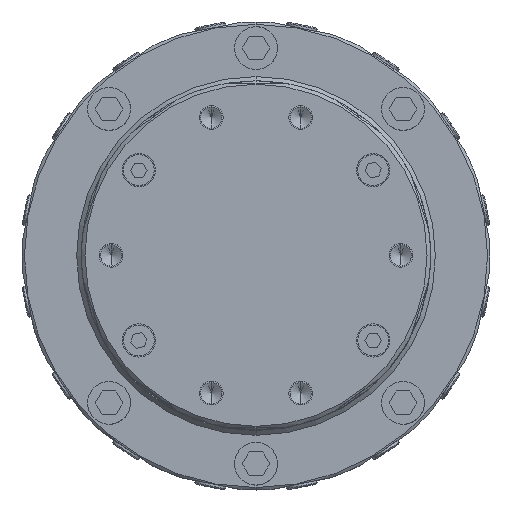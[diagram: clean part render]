
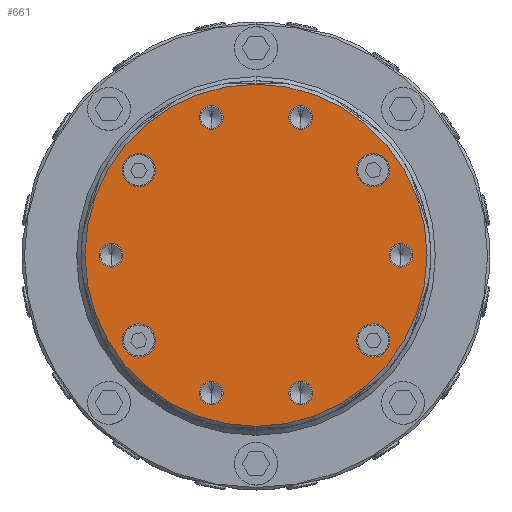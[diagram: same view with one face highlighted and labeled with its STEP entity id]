
A CAD part, top view. The second image highlights one B-rep face of the part: STEP entity #661.
In plain terms, the highlighted planar face has unit normal (0, 0, 1).
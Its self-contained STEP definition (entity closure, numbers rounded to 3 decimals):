
#436=CARTESIAN_POINT('',(61.0,5.0,185.0));
#437=VERTEX_POINT('',#436);
#438=CARTESIAN_POINT('',(61.0,-5.0,185.0));
#439=VERTEX_POINT('',#438);
#440=CARTESIAN_POINT('',(61.0,0.0,185.0));
#441=DIRECTION('',(-0.0,0.0,1.0));
#442=DIRECTION('',(0.0,-1.0,0.0));
#443=AXIS2_PLACEMENT_3D('',#440,#441,#442);
#444=CIRCLE('',#443,5.0);
#445=EDGE_CURVE('no 3980',#437,#439,#444,.T.);
#446=ORIENTED_EDGE('',*,*,#445,.F.);
#447=CARTESIAN_POINT('',(61.0,0.0,185.0));
#448=DIRECTION('',(-0.0,0.0,1.0));
#449=DIRECTION('',(0.0,-1.0,0.0));
#450=AXIS2_PLACEMENT_3D('',#447,#448,#449);
#451=CIRCLE('',#450,5.0);
#452=EDGE_CURVE('no 3984',#439,#437,#451,.T.);
#453=ORIENTED_EDGE('',*,*,#452,.F.);
#454=EDGE_LOOP('',(#446,#453));
#455=FACE_BOUND('',#454,.T.);
#456=CARTESIAN_POINT('',(18.85,63.014,185.0));
#457=VERTEX_POINT('',#456);
#458=CARTESIAN_POINT('',(18.85,53.014,185.0));
#459=VERTEX_POINT('',#458);
#460=CARTESIAN_POINT('',(18.85,58.014,185.0));
#461=DIRECTION('',(-0.0,0.0,1.0));
#462=DIRECTION('',(0.0,-1.0,0.0));
#463=AXIS2_PLACEMENT_3D('',#460,#461,#462);
#464=CIRCLE('',#463,5.0);
#465=EDGE_CURVE('no 3993',#457,#459,#464,.T.);
#466=ORIENTED_EDGE('',*,*,#465,.F.);
#467=CARTESIAN_POINT('',(18.85,58.014,185.0));
#468=DIRECTION('',(-0.0,0.0,1.0));
#469=DIRECTION('',(0.0,-1.0,0.0));
#470=AXIS2_PLACEMENT_3D('',#467,#468,#469);
#471=CIRCLE('',#470,5.0);
#472=EDGE_CURVE('no 3997',#459,#457,#471,.T.);
#473=ORIENTED_EDGE('',*,*,#472,.F.);
#474=EDGE_LOOP('',(#466,#473));
#475=FACE_BOUND('',#474,.T.);
#476=CARTESIAN_POINT('',(18.85,-53.014,185.0));
#477=VERTEX_POINT('',#476);
#478=CARTESIAN_POINT('',(18.85,-63.014,185.0));
#479=VERTEX_POINT('',#478);
#480=CARTESIAN_POINT('',(18.85,-58.014,185.0));
#481=DIRECTION('',(-0.0,0.0,1.0));
#482=DIRECTION('',(0.0,-1.0,0.0));
#483=AXIS2_PLACEMENT_3D('',#480,#481,#482);
#484=CIRCLE('',#483,5.0);
#485=EDGE_CURVE('no 4006',#477,#479,#484,.T.);
#486=ORIENTED_EDGE('',*,*,#485,.F.);
#487=CARTESIAN_POINT('',(18.85,-58.014,185.0));
#488=DIRECTION('',(-0.0,0.0,1.0));
#489=DIRECTION('',(0.0,-1.0,0.0));
#490=AXIS2_PLACEMENT_3D('',#487,#488,#489);
#491=CIRCLE('',#490,5.0);
#492=EDGE_CURVE('no 4010',#479,#477,#491,.T.);
#493=ORIENTED_EDGE('',*,*,#492,.F.);
#494=EDGE_LOOP('',(#486,#493));
#495=FACE_BOUND('',#494,.T.);
#496=CARTESIAN_POINT('',(49.35,42.855,185.0));
#497=VERTEX_POINT('',#496);
#498=CARTESIAN_POINT('',(49.35,28.855,185.0));
#499=VERTEX_POINT('',#498);
#500=CARTESIAN_POINT('',(49.35,35.855,185.0));
#501=DIRECTION('',(-0.0,0.0,1.0));
#502=DIRECTION('',(0.0,-1.0,0.0));
#503=AXIS2_PLACEMENT_3D('',#500,#501,#502);
#504=CIRCLE('',#503,7.0);
#505=EDGE_CURVE('no 4019',#497,#499,#504,.T.);
#506=ORIENTED_EDGE('',*,*,#505,.F.);
#507=CARTESIAN_POINT('',(49.35,35.855,185.0));
#508=DIRECTION('',(-0.0,0.0,1.0));
#509=DIRECTION('',(0.0,-1.0,0.0));
#510=AXIS2_PLACEMENT_3D('',#507,#508,#509);
#511=CIRCLE('',#510,7.0);
#512=EDGE_CURVE('no 4023',#499,#497,#511,.T.);
#513=ORIENTED_EDGE('',*,*,#512,.F.);
#514=EDGE_LOOP('',(#506,#513));
#515=FACE_BOUND('',#514,.T.);
#516=CARTESIAN_POINT('',(49.35,-28.855,185.0));
#517=VERTEX_POINT('',#516);
#518=CARTESIAN_POINT('',(49.35,-42.855,185.0));
#519=VERTEX_POINT('',#518);
#520=CARTESIAN_POINT('',(49.35,-35.855,185.0));
#521=DIRECTION('',(-0.0,0.0,1.0));
#522=DIRECTION('',(0.0,-1.0,0.0));
#523=AXIS2_PLACEMENT_3D('',#520,#521,#522);
#524=CIRCLE('',#523,7.0);
#525=EDGE_CURVE('no 4032',#517,#519,#524,.T.);
#526=ORIENTED_EDGE('',*,*,#525,.F.);
#527=CARTESIAN_POINT('',(49.35,-35.855,185.0));
#528=DIRECTION('',(-0.0,0.0,1.0));
#529=DIRECTION('',(0.0,-1.0,0.0));
#530=AXIS2_PLACEMENT_3D('',#527,#528,#529);
#531=CIRCLE('',#530,7.0);
#532=EDGE_CURVE('no 4036',#519,#517,#531,.T.);
#533=ORIENTED_EDGE('',*,*,#532,.F.);
#534=EDGE_LOOP('',(#526,#533));
#535=FACE_BOUND('',#534,.T.);
#536=CARTESIAN_POINT('',(-61.0,5.0,185.0));
#537=VERTEX_POINT('',#536);
#538=CARTESIAN_POINT('',(-61.0,-5.0,185.0));
#539=VERTEX_POINT('',#538);
#540=CARTESIAN_POINT('',(-61.0,0.0,185.0));
#541=DIRECTION('',(-0.0,0.0,1.0));
#542=DIRECTION('',(0.0,-1.0,0.0));
#543=AXIS2_PLACEMENT_3D('',#540,#541,#542);
#544=CIRCLE('',#543,5.0);
#545=EDGE_CURVE('no 4045',#537,#539,#544,.T.);
#546=ORIENTED_EDGE('',*,*,#545,.F.);
#547=CARTESIAN_POINT('',(-61.0,0.0,185.0));
#548=DIRECTION('',(-0.0,0.0,1.0));
#549=DIRECTION('',(0.0,-1.0,0.0));
#550=AXIS2_PLACEMENT_3D('',#547,#548,#549);
#551=CIRCLE('',#550,5.0);
#552=EDGE_CURVE('no 4049',#539,#537,#551,.T.);
#553=ORIENTED_EDGE('',*,*,#552,.F.);
#554=EDGE_LOOP('',(#546,#553));
#555=FACE_BOUND('',#554,.T.);
#556=CARTESIAN_POINT('',(-18.85,63.014,185.0));
#557=VERTEX_POINT('',#556);
#558=CARTESIAN_POINT('',(-18.85,53.014,185.0));
#559=VERTEX_POINT('',#558);
#560=CARTESIAN_POINT('',(-18.85,58.014,185.0));
#561=DIRECTION('',(-0.0,0.0,1.0));
#562=DIRECTION('',(0.0,-1.0,0.0));
#563=AXIS2_PLACEMENT_3D('',#560,#561,#562);
#564=CIRCLE('',#563,5.0);
#565=EDGE_CURVE('no 4058',#557,#559,#564,.T.);
#566=ORIENTED_EDGE('',*,*,#565,.F.);
#567=CARTESIAN_POINT('',(-18.85,58.014,185.0));
#568=DIRECTION('',(-0.0,0.0,1.0));
#569=DIRECTION('',(0.0,-1.0,0.0));
#570=AXIS2_PLACEMENT_3D('',#567,#568,#569);
#571=CIRCLE('',#570,5.0);
#572=EDGE_CURVE('no 4062',#559,#557,#571,.T.);
#573=ORIENTED_EDGE('',*,*,#572,.F.);
#574=EDGE_LOOP('',(#566,#573));
#575=FACE_BOUND('',#574,.T.);
#576=CARTESIAN_POINT('',(-18.85,-53.014,185.0));
#577=VERTEX_POINT('',#576);
#578=CARTESIAN_POINT('',(-18.85,-63.014,185.0));
#579=VERTEX_POINT('',#578);
#580=CARTESIAN_POINT('',(-18.85,-58.014,185.0));
#581=DIRECTION('',(-0.0,0.0,1.0));
#582=DIRECTION('',(0.0,-1.0,0.0));
#583=AXIS2_PLACEMENT_3D('',#580,#581,#582);
#584=CIRCLE('',#583,5.0);
#585=EDGE_CURVE('no 4071',#577,#579,#584,.T.);
#586=ORIENTED_EDGE('',*,*,#585,.F.);
#587=CARTESIAN_POINT('',(-18.85,-58.014,185.0));
#588=DIRECTION('',(-0.0,0.0,1.0));
#589=DIRECTION('',(0.0,-1.0,0.0));
#590=AXIS2_PLACEMENT_3D('',#587,#588,#589);
#591=CIRCLE('',#590,5.0);
#592=EDGE_CURVE('no 4075',#579,#577,#591,.T.);
#593=ORIENTED_EDGE('',*,*,#592,.F.);
#594=EDGE_LOOP('',(#586,#593));
#595=FACE_BOUND('',#594,.T.);
#596=CARTESIAN_POINT('',(-49.35,42.855,185.0));
#597=VERTEX_POINT('',#596);
#598=CARTESIAN_POINT('',(-49.35,28.855,185.0));
#599=VERTEX_POINT('',#598);
#600=CARTESIAN_POINT('',(-49.35,35.855,185.0));
#601=DIRECTION('',(-0.0,0.0,1.0));
#602=DIRECTION('',(0.0,-1.0,0.0));
#603=AXIS2_PLACEMENT_3D('',#600,#601,#602);
#604=CIRCLE('',#603,7.0);
#605=EDGE_CURVE('no 4084',#597,#599,#604,.T.);
#606=ORIENTED_EDGE('',*,*,#605,.F.);
#607=CARTESIAN_POINT('',(-49.35,35.855,185.0));
#608=DIRECTION('',(-0.0,0.0,1.0));
#609=DIRECTION('',(0.0,-1.0,0.0));
#610=AXIS2_PLACEMENT_3D('',#607,#608,#609);
#611=CIRCLE('',#610,7.0);
#612=EDGE_CURVE('no 4088',#599,#597,#611,.T.);
#613=ORIENTED_EDGE('',*,*,#612,.F.);
#614=EDGE_LOOP('',(#606,#613));
#615=FACE_BOUND('',#614,.T.);
#616=CARTESIAN_POINT('',(-49.35,-28.855,185.0));
#617=VERTEX_POINT('',#616);
#618=CARTESIAN_POINT('',(-49.35,-42.855,185.0));
#619=VERTEX_POINT('',#618);
#620=CARTESIAN_POINT('',(-49.35,-35.855,185.0));
#621=DIRECTION('',(-0.0,0.0,1.0));
#622=DIRECTION('',(0.0,-1.0,0.0));
#623=AXIS2_PLACEMENT_3D('',#620,#621,#622);
#624=CIRCLE('',#623,7.0);
#625=EDGE_CURVE('no 4097',#617,#619,#624,.T.);
#626=ORIENTED_EDGE('',*,*,#625,.F.);
#627=CARTESIAN_POINT('',(-49.35,-35.855,185.0));
#628=DIRECTION('',(-0.0,0.0,1.0));
#629=DIRECTION('',(0.0,-1.0,0.0));
#630=AXIS2_PLACEMENT_3D('',#627,#628,#629);
#631=CIRCLE('',#630,7.0);
#632=EDGE_CURVE('no 4101',#619,#617,#631,.T.);
#633=ORIENTED_EDGE('',*,*,#632,.F.);
#634=EDGE_LOOP('',(#626,#633));
#635=FACE_BOUND('',#634,.T.);
#636=CARTESIAN_POINT('',(-0.0,-72.0,185.0));
#637=VERTEX_POINT('',#636);
#638=CARTESIAN_POINT('',(-0.0,72.0,185.0));
#639=VERTEX_POINT('',#638);
#640=CARTESIAN_POINT('',(-0.0,0.0,185.0));
#641=DIRECTION('',(-0.0,0.0,1.0));
#642=DIRECTION('',(0.0,-1.0,0.0));
#643=AXIS2_PLACEMENT_3D('',#640,#641,#642);
#644=CIRCLE('',#643,72.0);
#645=EDGE_CURVE('no 4110',#637,#639,#644,.T.);
#646=ORIENTED_EDGE('',*,*,#645,.T.);
#647=CARTESIAN_POINT('',(-0.0,0.0,185.0));
#648=DIRECTION('',(-0.0,0.0,1.0));
#649=DIRECTION('',(0.0,-1.0,0.0));
#650=AXIS2_PLACEMENT_3D('',#647,#648,#649);
#651=CIRCLE('',#650,72.0);
#652=EDGE_CURVE('no 4114',#639,#637,#651,.T.);
#653=ORIENTED_EDGE('',*,*,#652,.T.);
#654=EDGE_LOOP('',(#646,#653));
#655=FACE_OUTER_BOUND('',#654,.T.);
#656=CARTESIAN_POINT('',(-0.0,0.0,185.0));
#657=DIRECTION('',(-0.0,0.0,1.0));
#658=DIRECTION('',(0.0,-1.0,0.0));
#659=AXIS2_PLACEMENT_3D('',#656,#657,#658);
#660=PLANE('',#659);
#661=ADVANCED_FACE('no 3971',(#455,#475,#495,#515,#535,#555,#575,#595,#615,#635,
    #655),#660,.T.);
